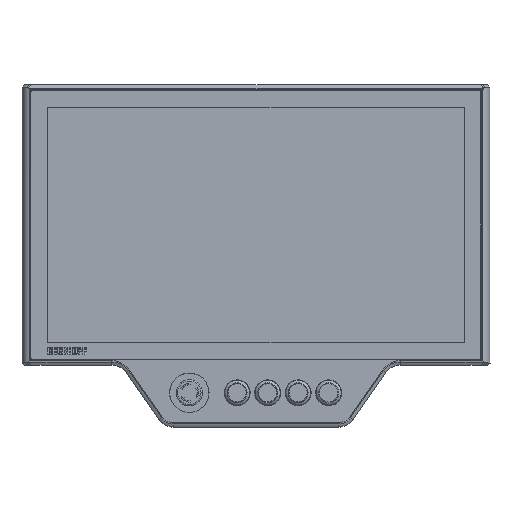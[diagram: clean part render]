
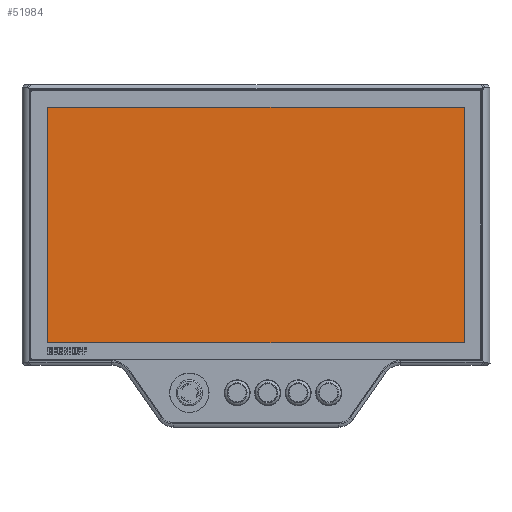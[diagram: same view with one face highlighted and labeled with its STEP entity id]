
A CAD part, top view. The second image highlights one B-rep face of the part: STEP entity #51984.
In plain terms, the highlighted planar face has unit normal (0, 0, 1).
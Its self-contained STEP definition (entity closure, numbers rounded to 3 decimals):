
#1898=PLANE('',#55487);
#4692=LINE('',#77925,#8463);
#4693=LINE('',#77927,#8464);
#4694=LINE('',#77929,#8465);
#4695=LINE('',#77930,#8466);
#8463=VECTOR('',#62161,10.);
#8464=VECTOR('',#62162,10.);
#8465=VECTOR('',#62163,10.);
#8466=VECTOR('',#62164,10.);
#12098=FACE_OUTER_BOUND('',#15184,.T.);
#15184=EDGE_LOOP('',(#35303,#35304,#35305,#35306));
#21590=VERTEX_POINT('',#77923);
#21591=VERTEX_POINT('',#77924);
#21592=VERTEX_POINT('',#77926);
#21593=VERTEX_POINT('',#77928);
#26769=EDGE_CURVE('',#21590,#21591,#4692,.T.);
#26770=EDGE_CURVE('',#21591,#21592,#4693,.T.);
#26771=EDGE_CURVE('',#21592,#21593,#4694,.T.);
#26772=EDGE_CURVE('',#21593,#21590,#4695,.T.);
#35303=ORIENTED_EDGE('',*,*,#26769,.F.);
#35304=ORIENTED_EDGE('',*,*,#26772,.F.);
#35305=ORIENTED_EDGE('',*,*,#26771,.F.);
#35306=ORIENTED_EDGE('',*,*,#26770,.F.);
#51984=ADVANCED_FACE('',(#12098),#1898,.T.);
#55487=AXIS2_PLACEMENT_3D('',#78030,#62279,#62280);
#62161=DIRECTION('',(1.,0.,0.));
#62162=DIRECTION('',(0.,-1.,0.));
#62163=DIRECTION('',(-1.,0.,0.));
#62164=DIRECTION('',(0.,1.,0.));
#62279=DIRECTION('center_axis',(0.,0.,
1.));
#62280=DIRECTION('ref_axis',(1.,0.,0.));
#77923=CARTESIAN_POINT('',(-239.18,135.03,0.8));
#77924=CARTESIAN_POINT('',(239.12,135.03,0.8));
#77925=CARTESIAN_POINT('',(119.545,135.03,0.8));
#77926=CARTESIAN_POINT('',(239.12,-134.97,0.8));
#77927=CARTESIAN_POINT('',(239.12,-67.47,0.8));
#77928=CARTESIAN_POINT('',(-239.18,-134.97,0.8));
#77929=CARTESIAN_POINT('',(-119.605,-134.97,0.8));
#77930=CARTESIAN_POINT('',(-239.18,67.53,0.8));
#78030=CARTESIAN_POINT('Origin',(-0.03,0.03,
0.8));
